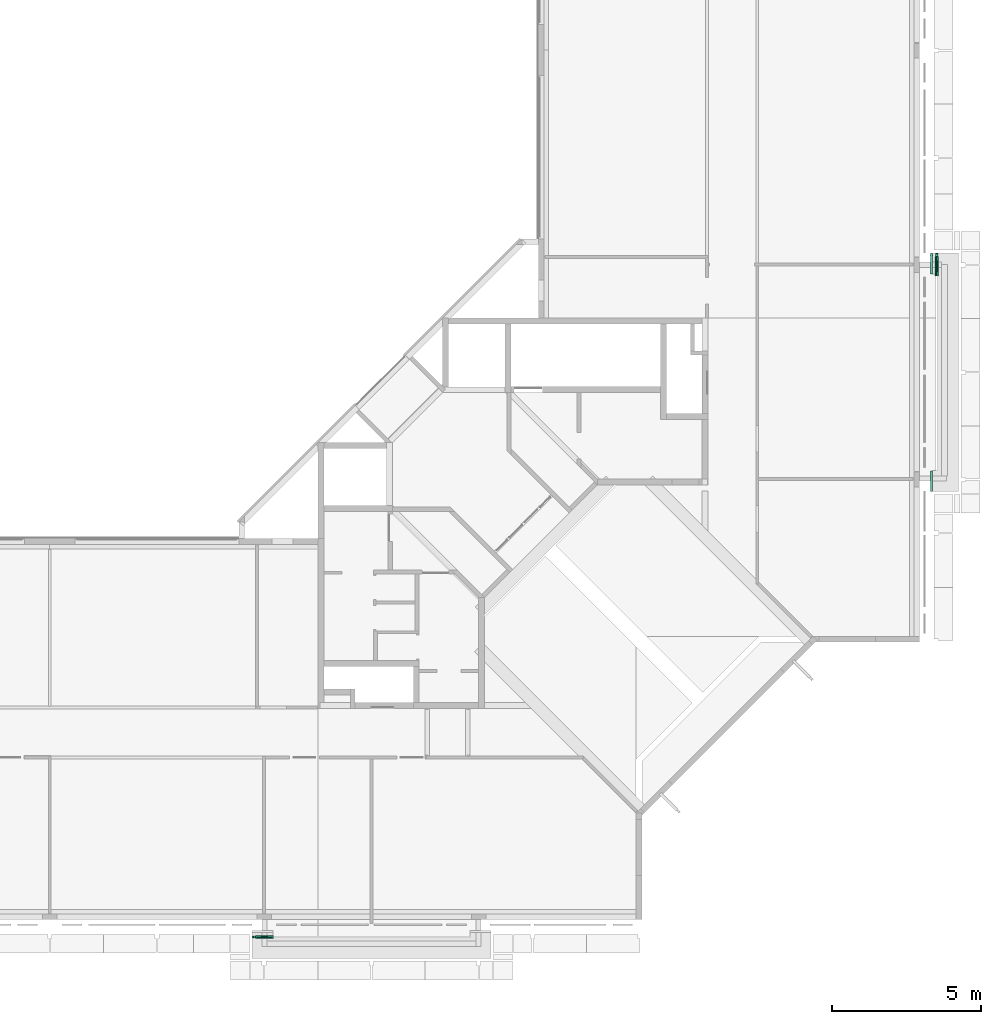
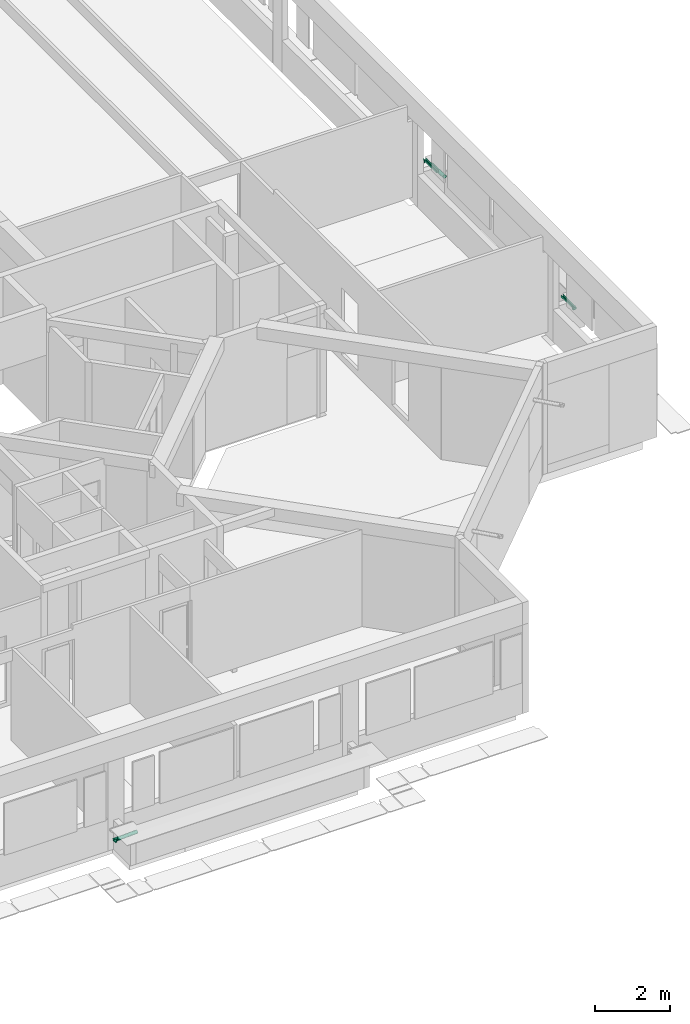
# One storey, part 36 of 38: 4 pipe fittings.
"""IFC4X3_ADD2 building model written with IfcOpenShell, lengths in millimetres."""

from ifc_helpers import new_model, si_unit, direction, frame, origin_with_axes, place, context, subcontext, project, spatial, triangles, polygons, source, transform, mapped, material, element, save


model = new_model("IFC4X3_ADD2")

# Units and contexts
model_context = context("Model", 3, precision=1e-05, world=origin_with_axes(), true_north=direction((0.0, 1.0)))
body_context = subcontext(model_context, "Body", "Model", "MODEL_VIEW")
ifc_project = project(units=[si_unit("LENGTHUNIT", "METRE", prefix="MILLI"), si_unit("AREAUNIT", "SQUARE_METRE"), si_unit("VOLUMEUNIT", "CUBIC_METRE"), si_unit("PLANEANGLEUNIT", "RADIAN"), si_unit("TIMEUNIT", "SECOND"), si_unit("MASSUNIT", "GRAM")], contexts=[model_context])

# Site, building, storey
site_placement = place(None, origin_with_axes())
site = spatial("IfcSite", under=ifc_project, at=site_placement, Name="Site", CompositionType="ELEMENT")
building_placement = place(site_placement, origin_with_axes())
building = spatial("IfcBuilding", under=site, at=building_placement, Name="IFC Building Story")
storey_placement = place(building_placement, frame((0.0, 0.0, 10800.0), z_axis=(0.0, 0.0, 1.0), x_axis=(1.0, 0.0, 0.0)))
storey = spatial("IfcBuildingStorey", under=building, at=storey_placement, Name="030", Elevation=10800.0)

# Pipe fittings
shared_shape_1 = source(origin_with_axes(), body_context, "Body", "Tessellation", [
    polygons([(2.59527223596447, 80.2423912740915, 117.667377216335), (2.59527223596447, 80.2423912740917, 3.81710663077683e-11), (20.5952722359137, 80.2423912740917, 7.36349647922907e-11), (20.5952722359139, 80.2423912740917, 41.0150039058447), (20.5952722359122, 80.2423912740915, 117.667377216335), (2.59527223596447, 82.242391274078, 117.667377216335), (2.59527223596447, 82.2423912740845, 7.30935312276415e-11), (110.595272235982, 82.2423912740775, 0.0), (110.595272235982, 82.242391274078, 117.667377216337), (110.595272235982, 80.2423912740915, 117.667377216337), (110.595272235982, 80.2423912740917, 0.0), (92.5952722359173, 82.242391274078, 117.667377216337), (92.5952722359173, 80.2423912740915, 117.667377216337), (92.5952722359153, 82.2423912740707, 41.0983372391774), (92.5952722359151, 80.2423912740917, 41.0150039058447), (20.5952722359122, 82.242391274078, 117.667377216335), (20.5952722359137, 82.2423912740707, 41.0983372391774), (20.5952722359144, 42.2423912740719, 1.13701048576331e-10), (20.5952722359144, 42.2423912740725, 39.431670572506), (92.5952722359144, 42.2423912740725, 39.431670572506), (92.5952722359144, 42.2423912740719, 1.13701048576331e-10), (92.5952722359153, 80.2423912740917, 7.25520976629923e-11), (22.5952722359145, 82.2423912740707, 41.0983372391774), (22.5952722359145, 82.2423912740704, 1.08557429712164e-10), (22.5952722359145, 44.2423912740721, 9.47508738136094e-11), (90.5952722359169, 44.2423912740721, 9.47508738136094e-11), (90.5952722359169, 82.2423912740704, 1.08557429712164e-10), (90.5952722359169, 82.2423912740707, 41.0983372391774), (90.5952722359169, 44.2423912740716, 39.5150039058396), (22.5952722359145, 44.2423912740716, 39.5150039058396)], [[[4, 5, 1]], [[4, 1, 2]], [[2, 3, 4]], [[6, 7, 2, 1]], [[8, 9, 10, 11]], [[9, 12, 13, 10]], [[13, 12, 14, 15]], [[16, 5, 4, 17]], [[16, 6, 1, 5]], [[18, 19, 4, 3]], [[20, 21, 22, 15]], [[19, 18, 21, 20]], [[17, 23, 24]], [[17, 24, 7]], [[7, 6, 16]], [[7, 16, 17]], [[3, 2, 7]], [[3, 7, 24]], [[22, 21, 26]], [[22, 26, 27]], [[27, 8, 11]], [[27, 11, 22]], [[21, 18, 25]], [[21, 25, 26]], [[18, 3, 24]], [[18, 24, 25]], [[15, 14, 28]], [[4, 19, 30]], [[4, 30, 23]], [[23, 17, 4]], [[19, 20, 29]], [[19, 29, 30]], [[20, 15, 28]], [[20, 28, 29]], [[26, 29, 28, 27]], [[30, 25, 24, 23]], [[29, 26, 25, 30]], [[14, 12, 9]], [[14, 9, 8]], [[8, 27, 14]], [[27, 28, 14]], [[15, 22, 11]], [[11, 10, 13]], [[11, 13, 15]]]),
    polygons([(3.46935179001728, 121.008650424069, 95.4580331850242), (1.59527223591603, 121.601263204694, 81.2353264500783), (3.46935179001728, 122.193875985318, 67.0126197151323), (8.9638750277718, 122.746103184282, 53.7591669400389), (17.7043992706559, 123.220311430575, 42.3781690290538), (29.0952722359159, 123.584184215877, 33.6452221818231), (42.3602247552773, 123.812924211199, 28.1554622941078), (56.5952722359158, 123.890943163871, 26.2830074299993), (70.8303197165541, 123.812924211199, 28.1554622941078), (84.0952722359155, 123.584184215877, 33.6452221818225), (95.4861452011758, 123.220311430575, 42.3781690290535), (104.22666944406, 122.746103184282, 53.7591669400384), (109.721192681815, 122.193875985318, 67.0126197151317), (111.595272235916, 121.601263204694, 81.2353264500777), (109.721192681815, 121.008650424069, 95.4580331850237), (104.22666944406, 120.456423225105, 108.711485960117), (95.4861452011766, 119.982214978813, 120.092483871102), (84.0952722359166, 119.618342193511, 128.825430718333), (70.8303197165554, 119.389602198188, 134.315190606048), (56.595272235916, 119.311583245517, 136.187645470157), (42.3602247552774, 119.389602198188, 134.315190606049), (29.095272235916, 119.618342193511, 128.825430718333), (17.704399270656, 119.982214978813, 120.092483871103), (8.96387502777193, 120.456423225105, 108.711485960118), (29.095272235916, 769.054839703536, 155.885284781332), (42.3602247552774, 768.826099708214, 161.375044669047), (56.5952722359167, 768.748080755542, 163.247499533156), (70.8303197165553, 768.826099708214, 161.375044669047), (84.0952722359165, 769.054839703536, 155.885284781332), (95.4861452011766, 769.418712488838, 147.152337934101), (104.22666944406, 769.892920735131, 135.771340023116), (109.721192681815, 770.445147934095, 122.517887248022), (111.595272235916, 771.037760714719, 108.295180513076), (109.721192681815, 771.630373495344, 94.0724737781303), (104.22666944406, 772.182600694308, 80.8190210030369), (95.4861452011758, 772.6568089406, 69.4380230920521), (84.0952722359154, 773.020681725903, 60.7050762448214), (70.8303197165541, 773.249421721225, 55.2153163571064), (56.5952722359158, 773.327440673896, 53.3428614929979), (42.3602247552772, 773.249421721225, 55.2153163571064), (29.0952722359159, 773.020681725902, 60.7050762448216), (17.7043992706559, 772.6568089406, 69.4380230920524), (8.96387502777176, 772.182600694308, 80.8190210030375), (3.46935179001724, 771.630373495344, 94.0724737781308), (1.59527223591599, 771.037760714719, 108.295180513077), (3.46935179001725, 770.445147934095, 122.517887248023), (8.9638750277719, 769.892920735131, 135.771340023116), (17.7043992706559, 769.418712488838, 147.152337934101), (77.6428610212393, 448.434900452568, 43.9959306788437), (67.0575535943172, 483.984405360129, 42.2920262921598), (67.0575535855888, 408.654618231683, 147.238480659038), (77.6428610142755, 444.204123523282, 145.53457628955), (56.5952722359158, 382.618184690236, 37.0633091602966), (56.5952722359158, 514.600199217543, 42.5625597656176), (100.229705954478, 447.713380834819, 61.3124012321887), (111.124739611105, 446.02064877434, 101.937970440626), (56.5952722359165, 510.020839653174, 152.467197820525), (90.0771508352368, 448.136037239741, 51.1686476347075), (107.408646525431, 447.195734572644, 73.7359114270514), (111.124739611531, 446.618375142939, 87.5925365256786), (56.595272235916, 378.038831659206, 146.967947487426), (107.408646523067, 445.443289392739, 115.79459554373), (90.0771508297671, 444.502986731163, 138.361859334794), (100.22970595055, 444.92564313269, 128.218105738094), (23.1133935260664, 444.502988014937, 138.361859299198), (35.5476832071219, 444.204127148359, 145.534576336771), (46.1329905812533, 479.488667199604, 150.189899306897), (12.9608384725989, 444.925643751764, 128.218105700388), (46.132990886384, 413.150363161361, 39.3406078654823), (35.5476834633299, 448.434900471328, 43.9959306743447), (5.78189792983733, 445.443289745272, 115.794595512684), (2.06580485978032, 446.020648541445, 101.937970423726), (2.06580486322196, 446.618375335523, 87.5925365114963), (5.78189795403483, 447.195734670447, 73.7359114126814), (12.9608385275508, 447.713380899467, 61.3124012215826), (23.1133936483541, 448.136037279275, 51.1686476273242)], [[[1, 2, 3]], [[1, 3, 4]], [[1, 4, 5]], [[1, 5, 6]], [[1, 6, 7]], [[1, 7, 8]], [[1, 8, 9]], [[1, 9, 10]], [[1, 10, 11]], [[1, 11, 12]], [[1, 12, 13]], [[1, 13, 14]], [[1, 14, 15]], [[1, 15, 16]], [[1, 16, 17]], [[1, 17, 18]], [[1, 18, 19]], [[1, 19, 20]], [[1, 20, 21]], [[1, 21, 22]], [[1, 22, 23]], [[1, 23, 24]], [[25, 26, 27]], [[25, 27, 28]], [[25, 28, 29]], [[25, 29, 30]], [[25, 30, 31]], [[25, 31, 32]], [[25, 32, 33]], [[25, 33, 34]], [[25, 34, 35]], [[25, 35, 36]], [[25, 36, 37]], [[25, 37, 38]], [[25, 38, 39]], [[25, 39, 40]], [[25, 40, 41]], [[25, 41, 42]], [[25, 42, 43]], [[25, 43, 44]], [[25, 44, 45]], [[25, 45, 46]], [[25, 46, 47]], [[25, 47, 48]], [[49, 50, 38]], [[28, 51, 52]], [[50, 53, 54, 39]], [[37, 49, 38]], [[55, 36, 35]], [[14, 56, 15]], [[28, 27, 57]], [[37, 36, 58]], [[9, 50, 49]], [[59, 35, 34]], [[39, 38, 50]], [[53, 50, 9]], [[58, 49, 37]], [[9, 8, 53]], [[59, 55, 35]], [[10, 49, 58]], [[55, 58, 36]], [[11, 58, 55]], [[55, 59, 12]], [[11, 55, 12]], [[60, 14, 13]], [[9, 49, 10]], [[56, 60, 33]], [[51, 57, 61, 20]], [[62, 32, 31]], [[52, 63, 29]], [[18, 52, 19]], [[30, 64, 31]], [[52, 29, 28]], [[16, 64, 17]], [[63, 64, 30]], [[30, 29, 63]], [[28, 57, 51]], [[20, 19, 51]], [[32, 56, 33]], [[15, 56, 62]], [[60, 59, 34]], [[14, 60, 56]], [[59, 60, 13]], [[16, 62, 64]], [[64, 62, 31]], [[17, 64, 63]], [[63, 52, 18]], [[33, 60, 34]], [[62, 56, 32]], [[12, 59, 13]], [[15, 62, 16]], [[17, 63, 18]], [[51, 19, 52]], [[10, 58, 11]], [[65, 66, 25]], [[67, 21, 61]], [[66, 26, 25]], [[67, 26, 66]], [[68, 48, 47]], [[40, 69, 70]], [[67, 61, 57, 27]], [[25, 48, 65]], [[69, 54, 53, 8]], [[71, 47, 46]], [[21, 66, 22]], [[26, 67, 27]], [[21, 20, 61]], [[23, 68, 24]], [[22, 65, 23]], [[22, 66, 65]], [[24, 71, 1]], [[23, 65, 68]], [[68, 71, 24]], [[72, 71, 46]], [[72, 2, 1]], [[68, 65, 48]], [[73, 72, 45]], [[71, 68, 47]], [[74, 44, 43]], [[40, 39, 54]], [[69, 7, 70]], [[42, 75, 43]], [[70, 41, 40]], [[70, 76, 41]], [[6, 70, 7]], [[42, 41, 76]], [[5, 76, 6]], [[8, 7, 69]], [[44, 73, 45]], [[3, 73, 74]], [[45, 72, 46]], [[2, 72, 73]], [[3, 74, 4]], [[4, 74, 75]], [[4, 75, 5]], [[5, 75, 76]], [[76, 70, 6]], [[76, 75, 42]], [[74, 73, 44]], [[75, 74, 43]], [[40, 54, 69]], [[2, 73, 3]], [[21, 67, 66]], [[71, 72, 1]]]),
    polygons([(90.5952722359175, 120.083261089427, 117.667377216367), (22.5952722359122, 120.083261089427, 117.667377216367), (22.5952722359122, 120.000000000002, 119.665643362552), (90.5952722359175, 120.000000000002, 119.665643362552), (90.5952722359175, 40.0166903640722, 114.3312701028), (90.5952722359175, 39.9334292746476, 116.329536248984), (22.5952722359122, 39.9334292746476, 116.329536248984), (22.5952722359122, 40.0166903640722, 114.3312701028)], [[[1, 2, 3, 4]], [[5, 6, 7, 8]], [[2, 1, 5, 8]], [[4, 3, 7, 6]], [[3, 2, 8, 7]], [[1, 4, 6, 5]]]),
    polygons([(92.5952722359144, 0.0, 114.665643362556), (90.5952722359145, 0.0, 114.665643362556), (90.5952722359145, 3.11934390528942, 39.8013896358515), (22.5952722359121, 3.11934390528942, 39.8013896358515), (22.5952722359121, 0.0, 114.665643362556), (20.5952722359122, 0.0, 114.665643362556), (20.5952722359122, 3.20252640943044, 37.8050095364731), (92.5952722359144, 3.20252640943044, 37.8050095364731), (20.5952722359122, 123.202526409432, 42.8050095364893), (92.5952722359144, 123.202526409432, 42.8050095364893), (22.5952722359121, 123.119343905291, 44.8013896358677), (22.5952722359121, 120.0, 119.665643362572), (90.5952722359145, 123.119343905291, 44.8013896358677), (90.5952722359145, 120.0, 119.665643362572), (92.5952722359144, 120.0, 119.665643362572), (20.5952722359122, 120.0, 119.665643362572)], [[[4, 5, 6]], [[4, 6, 7]], [[7, 8, 3]], [[7, 3, 4]], [[8, 1, 2]], [[8, 2, 3]], [[9, 10, 8, 7]], [[11, 12, 5, 4]], [[13, 11, 4, 3]], [[14, 13, 3, 2]], [[13, 14, 15]], [[13, 15, 10]], [[10, 9, 11]], [[10, 11, 13]], [[9, 16, 12]], [[9, 12, 11]], [[10, 15, 1, 8]], [[16, 9, 7, 6]], [[12, 16, 6, 5]], [[15, 14, 2, 1]]]),
])
pipe_fitting_1_placement = place(storey_placement, frame((731.595272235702, 22288.2423917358, 485.0), z_axis=(0.0, 0.0, 1.0), x_axis=(-1.0, 0.0, 0.0)))
element("IfcPipeFitting", 1, at=pipe_fitting_1_placement, inside=storey, Name="Afwerkstuk spuwer 70 x 70 RVS:Type 1", ObjectType="Afwerkstuk spuwer 70 x 70 RVS:Type 1", PredefinedType="EXIT", context=body_context, shape_type="MappedRepresentation", body=[
    mapped(shared_shape_1, transform((0.0, 0.0, 0.0))),
])
ifc_material = material(Name="<Unnamed>")
shared_shape_2 = source(origin_with_axes(), body_context, "Body", "Tessellation", [
    polygons([(0.0, 77.9999999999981, 111.999999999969), (0.0, 77.9999999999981, 0.0), (18.0000000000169, 77.9999999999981, 0.0), (18.0000000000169, 77.9999999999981, 39.9999999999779), (18.0000000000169, 77.9999999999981, 111.999999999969), (0.0, 79.9999999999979, 111.999999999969), (0.0, 79.9999999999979, 0.0), (108.0, 79.9999999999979, 0.0), (108.0, 79.9999999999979, 111.999999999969), (108.0, 77.9999999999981, 111.999999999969), (108.0, 77.9999999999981, 0.0), (90.0000000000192, 79.9999999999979, 111.999999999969), (90.0000000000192, 77.9999999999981, 111.999999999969), (90.0000000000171, 79.9999999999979, 39.9999999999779), (90.0000000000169, 77.9999999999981, 39.9999999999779), (18.0000000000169, 79.9999999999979, 111.999999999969), (18.0000000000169, 79.9999999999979, 39.9999999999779), (90.0000000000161, 39.999999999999, 0.0), (18.0000000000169, 39.999999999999, 0.0), (20.0000000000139, 79.9999999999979, 0.0), (20.0000000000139, 41.999999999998, 0.0), (88.0000000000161, 41.999999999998, 0.0), (88.0000000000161, 79.9999999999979, 0.0), (90.0000000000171, 77.9999999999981, 0.0), (18.0000000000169, 39.999999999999, 39.9999999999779), (90.0000000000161, 39.999999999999, 39.9999999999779), (88.0000000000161, 79.9999999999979, 39.9999999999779), (88.0000000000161, 41.999999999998, 39.9999999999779), (20.0000000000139, 41.999999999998, 39.9999999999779), (20.0000000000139, 79.9999999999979, 39.9999999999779)], [[[4, 5, 1]], [[4, 1, 2]], [[2, 3, 4]], [[6, 7, 2, 1]], [[8, 9, 10, 11]], [[9, 12, 13, 10]], [[13, 12, 14, 15]], [[16, 5, 4, 17]], [[16, 6, 1, 5]], [[3, 2, 7]], [[3, 7, 20]], [[24, 18, 22]], [[24, 22, 23]], [[23, 8, 11]], [[23, 11, 24]], [[18, 19, 21]], [[18, 21, 22]], [[19, 3, 20]], [[19, 20, 21]], [[15, 14, 27]], [[4, 25, 29]], [[4, 29, 30]], [[30, 17, 4]], [[25, 26, 28]], [[25, 28, 29]], [[26, 15, 27]], [[26, 27, 28]], [[26, 18, 24, 15]], [[19, 18, 26, 25]], [[19, 25, 4, 3]], [[17, 30, 20]], [[17, 20, 7]], [[7, 6, 16]], [[7, 16, 17]], [[22, 28, 27, 23]], [[29, 21, 20, 30]], [[28, 22, 21, 29]], [[14, 12, 9]], [[14, 9, 8]], [[8, 23, 14]], [[23, 27, 14]], [[15, 24, 11]], [[11, 10, 13]], [[11, 13, 15]]]),
    polygons([(18.0000000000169, 0.0, 39.9999999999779), (90.0000000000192, 0.0, 39.9999999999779), (90.0000000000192, 0.0, 111.999999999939), (88.000000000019, 0.0, 111.999999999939), (88.000000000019, 0.0, 41.999999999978), (20.0000000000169, 0.0, 41.999999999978), (20.0000000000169, 0.0, 111.999999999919), (18.0000000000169, 0.0, 111.999999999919), (18.0000000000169, 700.0, 39.9999999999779), (18.0000000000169, 700.0, 111.999999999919), (20.0000000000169, 700.0, 111.999999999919), (20.0000000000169, 700.0, 41.999999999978), (88.000000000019, 700.0, 41.999999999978), (88.000000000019, 700.0, 111.999999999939), (90.0000000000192, 700.0, 111.999999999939), (90.0000000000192, 700.0, 39.9999999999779)], [[[6, 7, 8]], [[6, 8, 1]], [[1, 2, 5]], [[1, 5, 6]], [[2, 3, 4]], [[2, 4, 5]], [[13, 14, 15]], [[13, 15, 16]], [[16, 9, 12]], [[16, 12, 13]], [[9, 10, 11]], [[9, 11, 12]], [[2, 1, 9, 16]], [[3, 2, 16, 15]], [[4, 3, 15, 14]], [[5, 4, 14, 13]], [[6, 5, 13, 12]], [[7, 6, 12, 11]], [[1, 8, 10, 9]], [[8, 7, 11, 10]]]),
])
pipe_fitting_2_placement = place(storey_placement, frame((549.0, 22287.0, 698.0), z_axis=(0.0, 0.0, 1.0), x_axis=(-1.0, 0.0, 0.0)))
element("IfcPipeFitting", 2, at=pipe_fitting_2_placement, inside=storey, material=ifc_material, Name="Spuwer 70 x 70 RVS:Type 1", ObjectType="Spuwer 70 x 70 RVS:Type 1", PredefinedType="EXIT", context=body_context, shape_type="MappedRepresentation", body=[
    mapped(shared_shape_2, transform((0.0, 0.0, 0.0))),
])
shared_shape_3 = source(origin_with_axes(), body_context, "Body", "Tessellation", [
    polygons([(2.59527223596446, 80.2423912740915, 117.667377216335), (2.59527223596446, 80.2423912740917, 3.79003495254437e-11), (20.5952722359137, 80.2423912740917, 7.30935312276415e-11), (20.5952722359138, 80.2423912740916, 41.0150039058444), (20.5952722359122, 80.2423912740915, 117.667377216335), (2.59527223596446, 82.242391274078, 117.667377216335), (2.59527223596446, 82.2423912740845, 7.30935312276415e-11), (110.595272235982, 82.2423912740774, 0.0), (110.595272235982, 82.242391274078, 117.667377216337), (110.595272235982, 80.2423912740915, 117.667377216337), (110.595272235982, 80.2423912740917, 0.0), (92.5952722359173, 82.242391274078, 117.667377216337), (92.5952722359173, 80.2423912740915, 117.667377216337), (92.5952722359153, 82.2423912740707, 41.0983372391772), (92.5952722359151, 80.2423912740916, 41.0150039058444), (20.5952722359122, 82.242391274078, 117.667377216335), (20.5952722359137, 82.2423912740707, 41.0983372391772), (20.5952722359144, 42.2423912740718, 1.13430331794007e-10), (20.5952722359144, 42.2423912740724, 39.4316705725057), (92.5952722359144, 42.2423912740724, 39.4316705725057), (92.5952722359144, 42.2423912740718, 1.13430331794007e-10), (92.5952722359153, 80.2423912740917, 7.25520976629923e-11), (22.5952722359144, 82.2423912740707, 41.0983372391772), (22.5952722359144, 82.2423912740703, 1.08286712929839e-10), (22.5952722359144, 44.242391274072, 9.44801570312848e-11), (90.5952722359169, 44.242391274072, 9.44801570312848e-11), (90.5952722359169, 82.2423912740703, 1.08286712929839e-10), (90.5952722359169, 82.2423912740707, 41.0983372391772), (90.5952722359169, 44.2423912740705, 39.5150039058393), (22.5952722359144, 44.2423912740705, 39.5150039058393)], [[[4, 5, 1]], [[4, 1, 2]], [[2, 3, 4]], [[6, 7, 2, 1]], [[8, 9, 10, 11]], [[9, 12, 13, 10]], [[13, 12, 14, 15]], [[16, 5, 4, 17]], [[16, 6, 1, 5]], [[18, 19, 4, 3]], [[20, 21, 22, 15]], [[19, 18, 21, 20]], [[17, 23, 24]], [[17, 24, 7]], [[7, 6, 16]], [[7, 16, 17]], [[3, 2, 7]], [[3, 7, 24]], [[22, 21, 26]], [[22, 26, 27]], [[27, 8, 11]], [[27, 11, 22]], [[21, 18, 25]], [[21, 25, 26]], [[18, 3, 24]], [[18, 24, 25]], [[15, 14, 28]], [[4, 19, 30]], [[4, 30, 23]], [[23, 17, 4]], [[19, 20, 29]], [[19, 29, 30]], [[20, 15, 28]], [[20, 28, 29]], [[26, 29, 28, 27]], [[30, 25, 24, 23]], [[29, 26, 25, 30]], [[14, 12, 9]], [[14, 9, 8]], [[8, 27, 14]], [[27, 28, 14]], [[15, 22, 11]], [[11, 10, 13]], [[11, 13, 15]]]),
    triangles([(1.59527223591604, 121.601263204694, 81.235326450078), (3.46935179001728, 122.193875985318, 67.012619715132), (8.96387502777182, 122.746103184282, 53.7591669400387), (17.7043992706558, 123.220311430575, 42.3781690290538), (29.0952722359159, 123.584184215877, 33.6452221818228), (42.3602247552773, 123.812924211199, 28.1554622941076), (56.5952722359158, 123.89094316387, 26.283007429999), (70.8303197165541, 123.812924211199, 28.1554622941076), (84.0952722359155, 123.584184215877, 33.6452221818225), (95.4861452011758, 123.220311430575, 42.3781690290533), (104.22666944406, 122.746103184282, 53.7591669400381), (109.721192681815, 122.193875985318, 67.0126197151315), (111.595272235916, 121.601263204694, 81.2353264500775), (109.721192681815, 121.008650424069, 95.4580331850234), (104.22666944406, 120.456423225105, 108.711485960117), (95.4861452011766, 119.982214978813, 120.092483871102), (84.0952722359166, 119.618342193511, 128.825430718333), (70.8303197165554, 119.389602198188, 134.315190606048), (56.595272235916, 119.311583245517, 136.187645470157), (42.3602247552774, 119.389602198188, 134.315190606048), (29.095272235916, 119.61834219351, 128.825430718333), (17.704399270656, 119.982214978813, 120.092483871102), (8.96387502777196, 120.456423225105, 108.711485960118), (3.46935179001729, 121.008650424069, 95.458033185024), (3.46935179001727, 720.488494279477, 120.436360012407), (8.96387502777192, 719.936267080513, 133.689812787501), (17.7043992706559, 719.462058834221, 145.070810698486), (29.095272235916, 719.098186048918, 153.803757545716), (42.3602247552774, 718.869446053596, 159.293517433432), (56.5952722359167, 718.791427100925, 161.16597229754), (70.8303197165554, 718.869446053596, 159.293517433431), (84.0952722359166, 719.098186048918, 153.803757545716), (95.4861452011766, 719.462058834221, 145.070810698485), (104.22666944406, 719.936267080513, 133.6898127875), (109.721192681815, 720.488494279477, 120.436360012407), (111.595272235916, 721.081107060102, 106.213653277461), (109.721192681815, 721.673719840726, 91.9909465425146), (104.22666944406, 722.22594703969, 78.7374937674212), (95.4861452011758, 722.700155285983, 67.3564958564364), (84.0952722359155, 723.064028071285, 58.6235490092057), (70.8303197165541, 723.292768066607, 53.1337891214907), (56.5952722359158, 723.370787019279, 51.2613342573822), (42.3602247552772, 723.292768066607, 53.1337891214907), (29.0952722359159, 723.064028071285, 58.6235490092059), (17.7043992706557, 722.700155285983, 67.3564958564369), (8.96387502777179, 722.22594703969, 78.7374937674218), (3.46935179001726, 721.673719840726, 91.9909465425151), (1.59527223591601, 721.081107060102, 106.213653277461), (77.642861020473, 423.456573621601, 42.9551670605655), (67.2371797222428, 439.305379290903, 40.4655454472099), (67.237179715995, 403.376990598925, 146.983434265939), (77.6428610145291, 419.22579669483, 144.493812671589), (56.5952722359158, 382.618184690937, 37.0633091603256), (56.5952722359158, 464.643545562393, 40.4810325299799), (100.229705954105, 422.735054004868, 60.2716376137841), (111.12473961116, 421.04232194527, 100.897206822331), (56.5952722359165, 460.064185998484, 150.385670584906), (56.595272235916, 378.038832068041, 146.967947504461), (90.0771508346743, 423.157710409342, 50.1278840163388), (107.408646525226, 422.217407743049, 72.6951478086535), (111.124739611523, 421.640048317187, 86.551772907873), (107.40864652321, 420.464962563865, 114.753831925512), (90.0771508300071, 419.524659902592, 137.321095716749), (100.229705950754, 419.94731630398, 127.177342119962), (23.1133935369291, 419.524661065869, 137.321095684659), (35.5476832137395, 419.225800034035, 144.493812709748), (45.9533644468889, 434.81256410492, 148.29324976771), (12.9608384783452, 419.947316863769, 127.177342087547), (45.9533647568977, 407.86981188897, 39.1557301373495), (35.5476834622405, 423.456573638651, 42.9551670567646), (5.78189793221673, 420.464962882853, 114.753831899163), (2.06580485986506, 421.042321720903, 100.897206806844), (2.06580486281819, 421.640048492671, 86.5517728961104), (5.78189795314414, 422.217407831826, 72.6951477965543), (12.9608385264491, 422.735054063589, 60.2716376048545), (23.1133936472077, 423.157710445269, 50.1278840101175)], [[1, 2, 3], [1, 3, 4], [1, 4, 5], [1, 5, 6], [1, 6, 7], [1, 7, 8], [1, 8, 9], [1, 9, 10], [1, 10, 11], [1, 11, 12], [1, 12, 13], [1, 13, 14], [1, 14, 15], [1, 15, 16], [1, 16, 17], [1, 17, 18], [1, 18, 19], [1, 19, 20], [1, 20, 21], [1, 21, 22], [1, 22, 23], [1, 23, 24], [25, 26, 27], [25, 27, 28], [25, 28, 29], [25, 29, 30], [25, 30, 31], [25, 31, 32], [25, 32, 33], [25, 33, 34], [25, 34, 35], [25, 35, 36], [25, 36, 37], [25, 37, 38], [25, 38, 39], [25, 39, 40], [25, 40, 41], [25, 41, 42], [25, 42, 43], [25, 43, 44], [25, 44, 45], [25, 45, 46], [25, 46, 47], [25, 47, 48], [49, 50, 41], [31, 51, 52], [53, 54, 50], [50, 7, 53], [54, 42, 50], [40, 49, 41], [55, 39, 38], [13, 56, 14], [58, 19, 51], [51, 57, 58], [51, 30, 57], [40, 39, 59], [8, 50, 49], [60, 38, 37], [42, 41, 50], [50, 8, 7], [59, 49, 40], [60, 55, 38], [9, 49, 59], [55, 59, 39], [10, 59, 55], [55, 60, 11], [10, 55, 11], [61, 13, 12], [8, 49, 9], [56, 61, 36], [62, 35, 34], [52, 63, 32], [17, 52, 18], [33, 64, 34], [52, 32, 31], [15, 64, 16], [63, 64, 33], [33, 32, 63], [30, 51, 31], [19, 18, 51], [35, 56, 36], [14, 56, 62], [61, 60, 37], [13, 61, 56], [60, 61, 12], [15, 62, 64], [64, 62, 34], [16, 64, 63], [63, 52, 17], [36, 61, 37], [62, 56, 35], [11, 60, 12], [14, 62, 15], [16, 63, 17], [51, 18, 52], [9, 59, 10], [65, 66, 28], [20, 19, 67], [66, 29, 28], [67, 29, 66], [68, 27, 26], [43, 69, 70], [58, 57, 67], [67, 19, 58], [57, 30, 67], [28, 27, 65], [54, 53, 69], [69, 42, 54], [53, 7, 69], [71, 26, 25], [20, 66, 21], [29, 67, 30], [22, 68, 23], [21, 65, 22], [21, 66, 65], [23, 71, 24], [22, 65, 68], [68, 71, 23], [72, 71, 25], [72, 1, 24], [68, 65, 27], [73, 72, 48], [71, 68, 26], [74, 47, 46], [69, 6, 70], [45, 75, 46], [70, 44, 43], [70, 76, 44], [5, 70, 6], [45, 44, 76], [4, 76, 5], [7, 6, 69], [47, 73, 48], [2, 73, 74], [48, 72, 25], [1, 72, 73], [2, 74, 3], [3, 74, 75], [3, 75, 4], [4, 75, 76], [76, 70, 5], [76, 75, 45], [74, 73, 47], [75, 74, 46], [42, 69, 43], [1, 73, 2], [20, 67, 66], [71, 72, 24]]),
    polygons([(90.5952722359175, 120.083261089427, 117.667377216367), (22.5952722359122, 120.083261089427, 117.667377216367), (22.5952722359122, 120.000000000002, 119.665643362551), (90.5952722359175, 120.000000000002, 119.665643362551), (90.5952722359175, 40.0166903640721, 114.331270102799), (90.5952722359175, 39.9334292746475, 116.329536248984), (22.5952722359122, 39.9334292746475, 116.329536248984), (22.5952722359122, 40.0166903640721, 114.331270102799)], [[[1, 2, 3, 4]], [[5, 6, 7, 8]], [[2, 1, 5, 8]], [[4, 3, 7, 6]], [[3, 2, 8, 7]], [[1, 4, 6, 5]]]),
    polygons([(92.5952722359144, 0.0, 114.665643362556), (90.5952722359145, 0.0, 114.665643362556), (90.5952722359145, 3.11934390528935, 39.8013896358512), (22.5952722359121, 3.11934390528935, 39.8013896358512), (22.5952722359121, 0.0, 114.665643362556), (20.5952722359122, 0.0, 114.665643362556), (20.5952722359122, 3.20252640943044, 37.8050095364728), (92.5952722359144, 3.20252640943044, 37.8050095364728), (20.5952722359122, 123.202526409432, 42.805009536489), (92.5952722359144, 123.202526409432, 42.805009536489), (22.5952722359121, 123.119343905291, 44.8013896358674), (22.5952722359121, 120.0, 119.665643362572), (90.5952722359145, 123.119343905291, 44.8013896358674), (90.5952722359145, 120.0, 119.665643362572), (92.5952722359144, 120.0, 119.665643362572), (20.5952722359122, 120.0, 119.665643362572)], [[[4, 5, 6]], [[4, 6, 7]], [[7, 8, 3]], [[7, 3, 4]], [[8, 1, 2]], [[8, 2, 3]], [[9, 10, 8, 7]], [[11, 12, 5, 4]], [[13, 11, 4, 3]], [[14, 13, 3, 2]], [[13, 14, 15]], [[13, 15, 10]], [[10, 9, 11]], [[10, 11, 13]], [[9, 16, 12]], [[9, 12, 11]], [[10, 15, 1, 8]], [[16, 9, 7, 6]], [[12, 16, 6, 5]], [[15, 14, 2, 1]]]),
])
pipe_fitting_3_placement = place(storey_placement, frame((-22308.2423912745, -618.404727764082, 485.0), z_axis=(0.0, 0.0, 1.0), x_axis=(0.0, -1.0, 0.0)))
element("IfcPipeFitting", 3, at=pipe_fitting_3_placement, inside=storey, Name="Afwerkstuk spuwer 70 x 70 RVS:Type 1", ObjectType="Afwerkstuk spuwer 70 x 70 RVS:Type 1", PredefinedType="EXIT", context=body_context, shape_type="MappedRepresentation", body=[
    mapped(shared_shape_3, transform((0.0, 0.0, 0.0))),
])
shared_shape_4 = source(origin_with_axes(), body_context, "Body", "Tessellation", [
    polygons([(0.0, 77.9999999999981, 111.999999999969), (0.0, 77.9999999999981, 0.0), (18.0000000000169, 77.9999999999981, 0.0), (18.0000000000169, 77.9999999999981, 39.9999999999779), (18.0000000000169, 77.9999999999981, 111.999999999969), (0.0, 79.999999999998, 111.999999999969), (0.0, 79.9999999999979, 0.0), (108.0, 79.999999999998, 0.0), (108.0, 79.9999999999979, 111.999999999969), (108.0, 77.9999999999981, 111.999999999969), (108.0, 77.9999999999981, 0.0), (90.0000000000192, 79.9999999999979, 111.999999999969), (90.0000000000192, 77.9999999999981, 111.999999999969), (90.0000000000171, 79.9999999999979, 39.9999999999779), (90.0000000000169, 77.9999999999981, 39.9999999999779), (18.0000000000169, 79.9999999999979, 111.999999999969), (18.0000000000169, 79.9999999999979, 39.9999999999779), (90.0000000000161, 39.999999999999, 0.0), (18.0000000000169, 39.999999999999, 0.0), (20.0000000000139, 79.9999999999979, 0.0), (20.0000000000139, 41.999999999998, 0.0), (88.0000000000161, 41.999999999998, 0.0), (88.0000000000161, 79.9999999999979, 0.0), (90.0000000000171, 77.9999999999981, 0.0), (18.0000000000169, 39.999999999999, 39.9999999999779), (90.0000000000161, 39.999999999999, 39.9999999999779), (88.0000000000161, 79.9999999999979, 39.9999999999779), (88.0000000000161, 41.999999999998, 39.9999999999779), (20.0000000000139, 41.999999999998, 39.9999999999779), (20.0000000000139, 79.9999999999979, 39.9999999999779)], [[[4, 5, 1]], [[4, 1, 2]], [[2, 3, 4]], [[6, 7, 2, 1]], [[8, 9, 10, 11]], [[9, 12, 13, 10]], [[13, 12, 14, 15]], [[16, 5, 4, 17]], [[16, 6, 1, 5]], [[3, 2, 7]], [[3, 7, 20]], [[24, 18, 22]], [[24, 22, 23]], [[23, 8, 11]], [[23, 11, 24]], [[18, 19, 21]], [[18, 21, 22]], [[19, 3, 20]], [[19, 20, 21]], [[15, 14, 27]], [[4, 25, 29]], [[4, 29, 30]], [[30, 17, 4]], [[25, 26, 28]], [[25, 28, 29]], [[26, 15, 27]], [[26, 27, 28]], [[26, 18, 24, 15]], [[19, 18, 26, 25]], [[19, 25, 4, 3]], [[17, 30, 20]], [[17, 20, 7]], [[7, 6, 16]], [[7, 16, 17]], [[22, 28, 27, 23]], [[29, 21, 20, 30]], [[28, 22, 21, 29]], [[14, 12, 9]], [[14, 9, 8]], [[8, 23, 14]], [[23, 27, 14]], [[15, 24, 11]], [[11, 10, 13]], [[11, 13, 15]]]),
    polygons([(18.0000000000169, 0.0, 39.9999999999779), (90.0000000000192, 0.0, 39.9999999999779), (90.0000000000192, 0.0, 111.999999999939), (88.000000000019, 0.0, 111.999999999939), (88.000000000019, 0.0, 41.999999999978), (20.0000000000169, 0.0, 41.999999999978), (20.0000000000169, 0.0, 111.999999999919), (18.0000000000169, 0.0, 111.999999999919), (18.0000000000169, 700.0, 39.9999999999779), (18.0000000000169, 700.0, 111.999999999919), (20.0000000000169, 700.0, 111.999999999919), (20.0000000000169, 700.0, 41.999999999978), (88.000000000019, 700.0, 41.999999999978), (88.000000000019, 700.0, 111.999999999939), (90.0000000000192, 700.0, 111.999999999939), (90.0000000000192, 700.0, 39.9999999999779)], [[[6, 7, 8]], [[6, 8, 1]], [[1, 2, 5]], [[1, 5, 6]], [[2, 3, 4]], [[2, 4, 5]], [[13, 14, 15]], [[13, 15, 16]], [[16, 9, 12]], [[16, 12, 13]], [[9, 10, 11]], [[9, 11, 12]], [[2, 1, 9, 16]], [[3, 2, 16, 15]], [[4, 3, 15, 14]], [[5, 4, 14, 13]], [[6, 5, 13, 12]], [[7, 6, 12, 11]], [[1, 8, 10, 9]], [[8, 7, 11, 10]]]),
])
pipe_fitting_4_placement = place(storey_placement, frame((441.0, 14273.0, 698.0), z_axis=(0.0, 0.0, 1.0), x_axis=(1.0, 0.0, 0.0)))
element("IfcPipeFitting", 4, at=pipe_fitting_4_placement, inside=storey, material=ifc_material, Name="Spuwer 70 x 70 RVS:Type 1", ObjectType="Spuwer 70 x 70 RVS:Type 1", PredefinedType="EXIT", context=body_context, shape_type="MappedRepresentation", body=[
    mapped(shared_shape_4, transform((0.0, 0.0, 0.0))),
])

save(model, "model.ifc")
